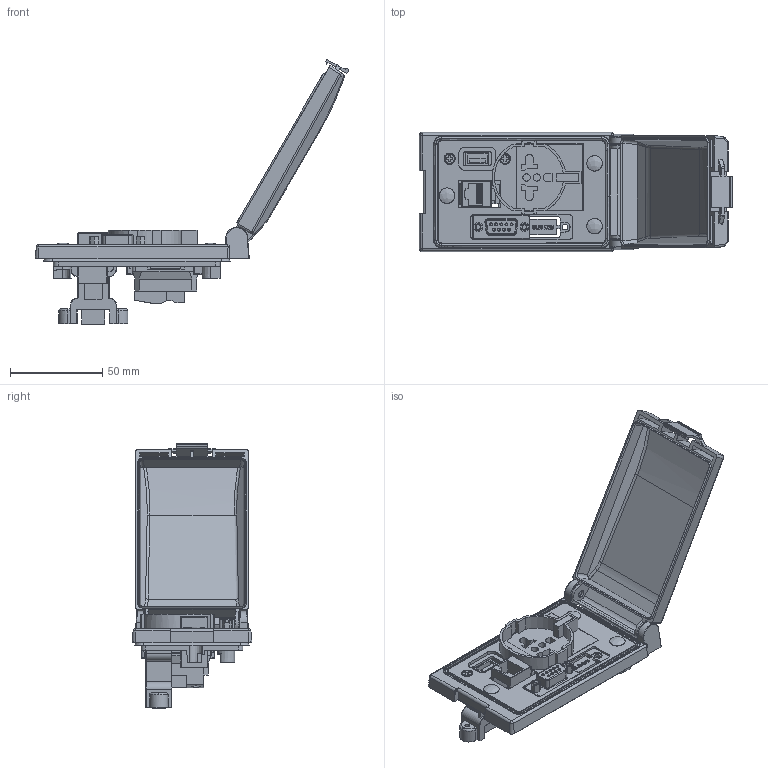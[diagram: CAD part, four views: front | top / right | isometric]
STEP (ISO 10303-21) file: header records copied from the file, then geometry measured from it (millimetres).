
FILE_DESCRIPTION (( 'STEP AP203' ), '1' );
FILE_NAME ('9145209EU.STEP', '2023-10-30T02:12:44', ( 'ADMIN' ), ( '' ), 'SwSTEP 2.0', 'SolidWorks 2016', '' );
FILE_SCHEMA (( 'CONFIG_CONTROL_DESIGN' ));
Products named in the file (1): 9145209EU
Bounding box: 169.88 x 65 x 143.28 mm (x, y, z)
Volume: 99592.3 mm3; surface area: 71500.6 mm2
Topology: 1 solids, 9 shells, 2231 faces, 5876 edges, 3708 vertices
Faces by surface type: plane 935, cylinder 759, bspline 389, cone 148
Entity records: 97665 total; most frequent: CARTESIAN_POINT 47954, ORIENTED_EDGE 11658, DIRECTION 8079, EDGE_CURVE 5829, VERTEX_POINT 3709, VECTOR 3153, LINE 3153, AXIS2_PLACEMENT_3D 2463
